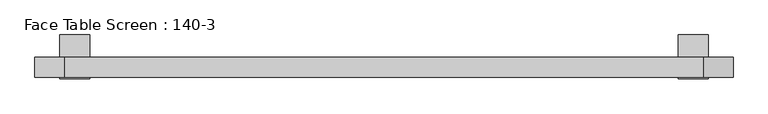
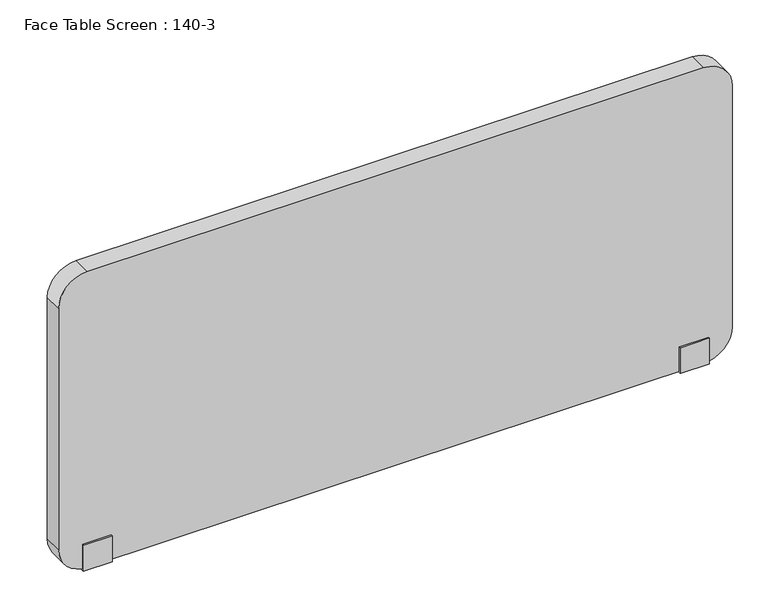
"""IFC4 building model written with IfcOpenShell, lengths in millimetres: furniture geometry, Face Table Screen : 140-3."""

from ifc_helpers import new_model, si_unit, point, frame, frame_2d, origin, place, context, project, spatial, polyline, circle_curve, trimmed, segment, composite_curve, outline, extrude, source, transform, mapped, element, save


def face_table_screen_140_3_ea5aa285(model_context):
    return source(origin(), model_context, "Body", "SweptSolid", [
        extrude(outline(polyline([(-22.9999947, -256.0), (-22.9999997, -199.0433898), (-20.0, -199.0433898), (-20.0, -253.0), (20.0, -253.0), (20.0, -22.0), (65.0, -22.0), (65.0, -25.0433898), (23.0000062, -25.0433898), (22.9999947, -256.0), (-22.9999947, -256.0)])), frame((590.0, 0.0, 0.0), z_axis=(1.0, 0.0, 0.0), x_axis=(0.0, 1.0, 0.0)), (0.0, 0.0, 1.0), 60.0),
        extrude(outline(polyline([(-22.9999947, -256.0), (-22.9999997, -199.0433898), (-20.0, -199.0433898), (-20.0, -253.0), (20.0, -253.0), (20.0, -22.0), (65.0, -22.0), (65.0, -25.0433898), (23.0000062, -25.0433898), (22.9999947, -256.0), (-22.9999947, -256.0)])), frame((-650.0, 0.0, 0.0), z_axis=(1.0, 0.0, 0.0), x_axis=(0.0, 1.0, 0.0)), (0.0, 0.0, 1.0), 60.0),
        extrude(outline(composite_curve([segment(polyline([(397.0, 640.0), (397.0, -640.0)]), True, "CONTINUOUS"), segment(trimmed(circle_curve(frame_2d((337.0, -640.0)), 60.0), [point((397.0, -640.0))], [point((337.0, -700.0))], False, "CARTESIAN"), True, "CONTINUOUS"), segment(polyline([(337.0, -700.0), (-193.0, -700.0)]), True, "CONTINUOUS"), segment(trimmed(circle_curve(frame_2d((-193.0, -640.0)), 60.0), [point((-193.0, -700.0))], [point((-253.0, -640.0))], False, "CARTESIAN"), True, "CONTINUOUS"), segment(polyline([(-253.0, -640.0), (-253.0, 640.0)]), True, "CONTINUOUS"), segment(trimmed(circle_curve(frame_2d((-193.0, 640.0)), 60.0), [point((-253.0, 640.0))], [point((-193.0, 700.0))], False, "CARTESIAN"), True, "CONTINUOUS"), segment(polyline([(-193.0, 700.0), (337.0, 700.0)]), True, "CONTINUOUS"), segment(trimmed(circle_curve(frame_2d((337.0, 640.0)), 60.0), [point((337.0, 700.0))], [point((397.0, 640.0))], False, "CARTESIAN"), True, "CONTINUOUS")], self_intersect=False)), frame((0.0, -20.0, 0.0), z_axis=(0.0, 1.0, 0.0), x_axis=(0.0, 0.0, 1.0)), (0.0, 0.0, 1.0), 40.0),
    ])


if __name__ == "__main__":
    model = new_model("IFC4")
    model_context = context("Model", 3, world=origin())
    ifc_project = project(units=[si_unit("LENGTHUNIT", "METRE", prefix="MILLI")], contexts=[model_context])
    site = spatial("IfcSite", under=ifc_project)
    building = spatial("IfcBuilding", under=site)
    placement = place(None, origin())
    face_table_screen_140_3_shape = face_table_screen_140_3_ea5aa285(model_context)
    element("IfcFurniture", 1, ObjectType="Face Table Screen : 140-3", at=placement, inside=building, context=model_context, shape_type="MappedRepresentation", body=[
        mapped(face_table_screen_140_3_shape, transform((0.0, 0.0, 0.0), x_axis=(1.0, 0.0, 0.0), y_axis=(0.0, 1.0, 0.0), z_axis=(0.0, 0.0, 1.0))),
    ])
    save(model, "model.ifc")
